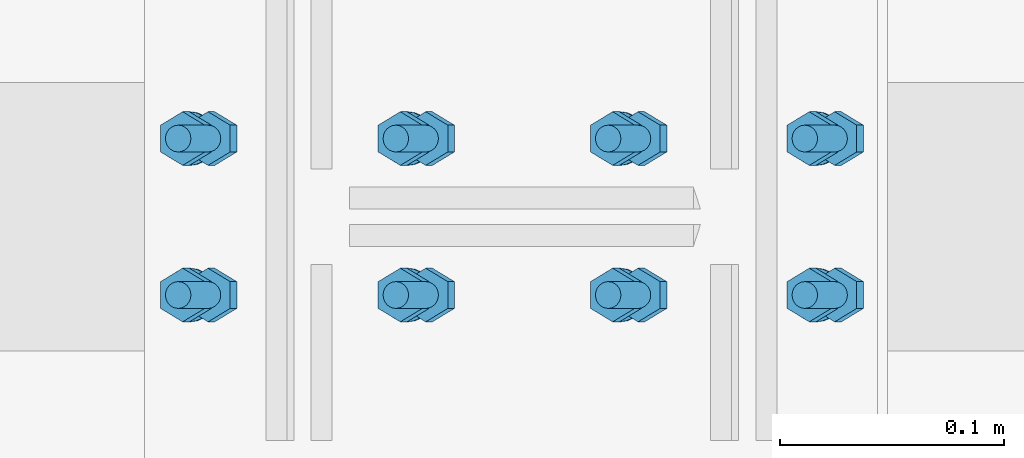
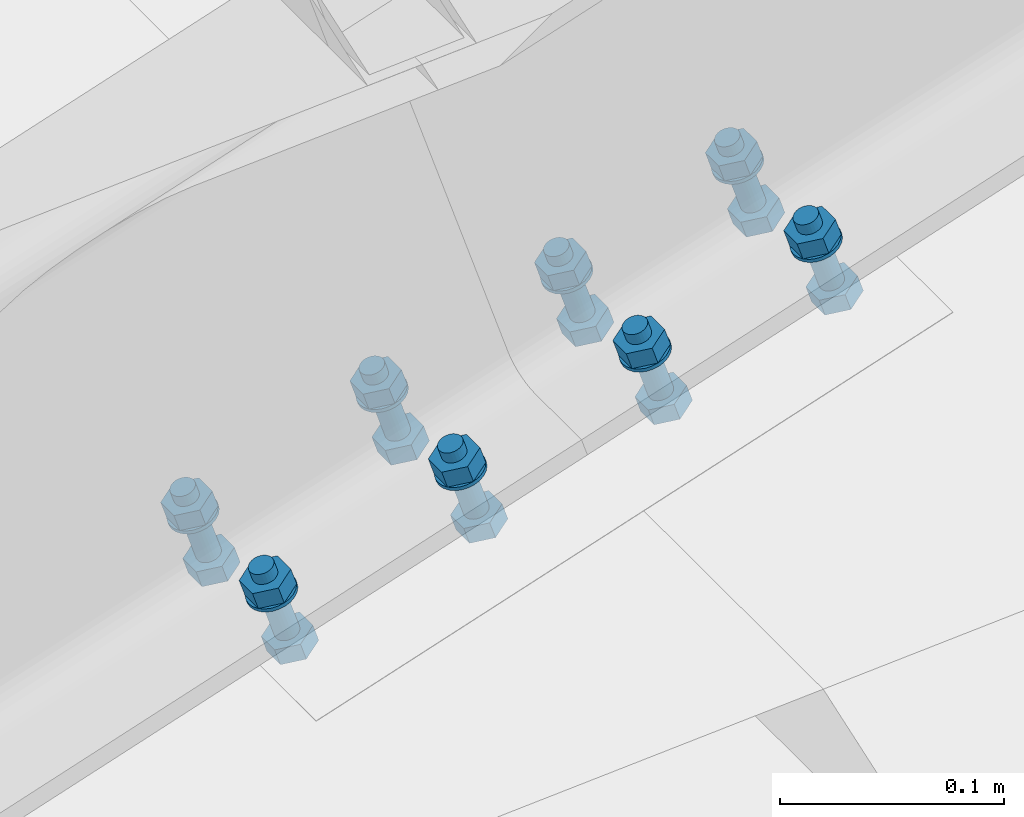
# One storey, part 25 of 53: 32 mechanical fasteners.
"""IFC4 building model written with IfcOpenShell, lengths in metres."""

from ifc_helpers import new_model, si_unit, frame, origin_with_axes, place, context, project, spatial, polyline, outline, extrude, type_object, element, save


model = new_model("IFC4")

# Units and contexts
model_context = context("Model", 3, precision=1e-05, world=origin_with_axes())
ifc_project = project(units=[si_unit("LENGTHUNIT", "METRE"), si_unit("AREAUNIT", "SQUARE_METRE"), si_unit("VOLUMEUNIT", "CUBIC_METRE"), si_unit("MASSUNIT", "GRAM", prefix="KILO"), si_unit("TIMEUNIT", "SECOND"), si_unit("PLANEANGLEUNIT", "RADIAN"), si_unit("SOLIDANGLEUNIT", "STERADIAN"), si_unit("THERMODYNAMICTEMPERATUREUNIT", "DEGREE_CELSIUS")], contexts=[model_context])

# Site, building, storey
placement_1 = place(None, origin_with_axes())
site = spatial("IfcSite", under=ifc_project, at=placement_1, Name="Italia", CompositionType="ELEMENT")
building = spatial("IfcBuilding", under=site, at=placement_1, Name="Capannone", CompositionType="ELEMENT")
storey_placement = place(None, frame((0.0, 0.0, 5.550000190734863), z_axis=(0.0, 0.0, 1.0), x_axis=(1.0, 0.0, 0.0)))
storey = spatial("IfcBuildingStorey", under=building, at=storey_placement, Name="Storey 1", CompositionType="ELEMENT", Elevation=5.550000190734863)

# Mechanical fasteners
mechanical_fastener_type_1 = type_object("IfcMechanicalFastenerType", Name="Collegamenti 0101_0001 0103_0003 0105_0005 0107_0007 0109_0009 0111_0011", PredefinedType="BOLT")
placement_2 = place(placement_1, origin_with_axes())
mechanical_fastener_1_placement = place(placement_2, origin_with_axes())
element("IfcMechanicalFastener", 1, at=mechanical_fastener_1_placement, inside=storey, type_object=mechanical_fastener_type_1, Name="Collegamenti 0101_0001 0103_0003 0105_0005 0107_0007 0109_0009 0111_0011", NominalDiameter=0.0119998, context=model_context, shape_type="SweptSolid", body=[
    extrude(outline(polyline([(0.0, 0.0), (0.0119998, 0.0), (0.0179999, -0.0103923), (0.0119998, -0.0207845), (0.0, -0.0207845), (-0.00600004, -0.0103923), (0.0, 0.0)])), frame((-0.130325, 3.029, 5.49139), z_axis=(0.312164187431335, 0.0, -0.95002818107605), x_axis=(0.0, 1.0, 0.0)), (0.0, 0.0, 1.0), 0.0095997),
])
mechanical_fastener_type_2 = type_object("IfcMechanicalFastenerType", Name="Collegamenti 0101_0001 0103_0003 0105_0005 0107_0007 0109_0009 0111_0011", PredefinedType="BOLT")
mechanical_fastener_2_placement = place(placement_2, origin_with_axes())
element("IfcMechanicalFastener", 2, at=mechanical_fastener_2_placement, inside=storey, type_object=mechanical_fastener_type_2, Name="Collegamenti 0101_0001 0103_0003 0105_0005 0107_0007 0109_0009 0111_0011", NominalDiameter=0.012, context=model_context, shape_type="SweptSolid", body=[
    extrude(outline(polyline([(0.0, 0.0), (-0.000204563, -0.00155306), (-0.000803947, -0.00300002), (-0.00175738, -0.00424254), (-0.00300002, -0.00519633), (-0.00444722, -0.0057956), (-0.00600004, -0.00600004), (-0.00755286, -0.0057956), (-0.00900006, -0.00519633), (-0.0102427, -0.00424254), (-0.0111961, -0.00300002), (-0.0117955, -0.00155306), (-0.0120001, 0.0), (-0.0117955, 0.00155294), (-0.0111961, 0.00300002), (-0.0102427, 0.00424254), (-0.00900006, 0.00519621), (-0.00755286, 0.00579548), (-0.00600004, 0.00600004), (-0.00444722, 0.00579548), (-0.00300002, 0.00519621), (-0.00175738, 0.00424254), (-0.000803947, 0.00300002), (-0.000204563, 0.00155294), (0.0, 0.0)])), frame((-0.153558, 3.041, 5.52881), z_axis=(0.312153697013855, 0.0, -0.950031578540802), x_axis=(0.0, 1.0, 0.0)), (0.0, 0.0, 1.0), 0.0428),
])
mechanical_fastener_type_3 = type_object("IfcMechanicalFastenerType", Name="Collegamenti 0101_0001 0103_0003 0105_0005 0107_0007 0109_0009 0111_0011", PredefinedType="BOLT")
mechanical_fastener_3_placement = place(placement_2, origin_with_axes())
element("IfcMechanicalFastener", 3, at=mechanical_fastener_3_placement, inside=storey, type_object=mechanical_fastener_type_3, Name="Collegamenti 0101_0001 0103_0003 0105_0005 0107_0007 0109_0009 0111_0011", NominalDiameter=0.0119998, context=model_context, shape_type="SweptSolid", body=[
    extrude(outline(polyline([(0.0, 0.0), (0.0119998, 0.0), (0.0179999, -0.0103924), (0.0119998, -0.0207846), (0.0, -0.0207846), (-0.00600004, -0.0103924), (0.0, 0.0)])), frame((-0.141687, 3.029, 5.52597), z_axis=(0.312164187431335, 0.0, -0.95002818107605), x_axis=(0.0, 1.0, 0.0)), (0.0, 0.0, 1.0), 0.0095997),
])
mechanical_fastener_type_4 = type_object("IfcMechanicalFastenerType", Name="Collegamenti 0101_0001 0103_0003 0105_0005 0107_0007 0109_0009 0111_0011", PredefinedType="BOLT")
mechanical_fastener_4_placement = place(placement_2, origin_with_axes())
element("IfcMechanicalFastener", 4, at=mechanical_fastener_4_placement, inside=storey, type_object=mechanical_fastener_type_4, Name="Collegamenti 0101_0001 0103_0003 0105_0005 0107_0007 0109_0009 0111_0011", NominalDiameter=0.024, context=model_context, shape_type="SweptSolid", body=[
    extrude(outline(polyline([(0.0, 0.0), (-0.000408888, -0.00310576), (-0.00160789, -0.00599992), (-0.00351477, -0.0084852), (-0.00600004, -0.0103922), (-0.00889421, -0.0115911), (-0.0120001, -0.0119998), (-0.015106, -0.0115911), (-0.0180001, -0.0103922), (-0.0204854, -0.0084852), (-0.0223923, -0.00599992), (-0.0235913, -0.00310576), (-0.0240002, 0.0), (-0.0235913, 0.003106), (-0.0223923, 0.00600016), (-0.0204854, 0.00848532), (-0.0180001, 0.0103924), (-0.015106, 0.0115913), (-0.0120001, 0.0120001), (-0.00889421, 0.0115913), (-0.00600004, 0.0103924), (-0.00351477, 0.00848532), (-0.00160789, 0.00600016), (-0.000408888, 0.003106), (0.0, 0.0)])), frame((-0.148563, 3.047, 5.51361), z_axis=(0.312059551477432, 0.0, -0.95006251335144), x_axis=(0.0, 1.0, 0.0)), (0.0, 0.0, 1.0), 0.00200058),
])
mechanical_fastener_type_5 = type_object("IfcMechanicalFastenerType", Name="Collegamenti 0101_0001 0103_0003 0105_0005 0107_0007 0109_0009 0111_0011", PredefinedType="BOLT")
mechanical_fastener_5_placement = place(placement_2, origin_with_axes())
element("IfcMechanicalFastener", 5, at=mechanical_fastener_5_placement, inside=storey, type_object=mechanical_fastener_type_5, Name="Collegamenti 0101_0001 0103_0003 0105_0005 0107_0007 0109_0009 0111_0011", NominalDiameter=0.0119998, context=model_context, shape_type="SweptSolid", body=[
    extrude(outline(polyline([(0.0, 0.0), (0.0119998, 0.0), (0.0179999, -0.0103923), (0.0119998, -0.0207845), (0.0, -0.0207845), (-0.00600004, -0.0103923), (0.0, 0.0)])), frame((-0.130325, 2.959, 5.49139), z_axis=(0.312164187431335, 0.0, -0.95002818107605), x_axis=(0.0, 1.0, 0.0)), (0.0, 0.0, 1.0), 0.0095997),
])
mechanical_fastener_type_6 = type_object("IfcMechanicalFastenerType", Name="Collegamenti 0101_0001 0103_0003 0105_0005 0107_0007 0109_0009 0111_0011", PredefinedType="BOLT")
mechanical_fastener_6_placement = place(placement_2, origin_with_axes())
element("IfcMechanicalFastener", 6, at=mechanical_fastener_6_placement, inside=storey, type_object=mechanical_fastener_type_6, Name="Collegamenti 0101_0001 0103_0003 0105_0005 0107_0007 0109_0009 0111_0011", NominalDiameter=0.012, context=model_context, shape_type="SweptSolid", body=[
    extrude(outline(polyline([(0.0, 0.0), (-0.000204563, -0.00155306), (-0.000803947, -0.00300002), (-0.00175738, -0.00424254), (-0.00300002, -0.00519633), (-0.00444722, -0.0057956), (-0.00600004, -0.00600004), (-0.00755286, -0.0057956), (-0.00900006, -0.00519633), (-0.0102427, -0.00424254), (-0.0111961, -0.00300002), (-0.0117955, -0.00155306), (-0.0120001, 0.0), (-0.0117955, 0.00155294), (-0.0111961, 0.00300002), (-0.0102427, 0.00424254), (-0.00900006, 0.00519621), (-0.00755286, 0.00579548), (-0.00600004, 0.00600004), (-0.00444722, 0.00579548), (-0.00300002, 0.00519621), (-0.00175738, 0.00424254), (-0.000803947, 0.00300002), (-0.000204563, 0.00155294), (0.0, 0.0)])), frame((-0.153558, 2.971, 5.52881), z_axis=(0.312153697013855, 0.0, -0.950031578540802), x_axis=(0.0, 1.0, 0.0)), (0.0, 0.0, 1.0), 0.0428),
])
mechanical_fastener_type_7 = type_object("IfcMechanicalFastenerType", Name="Collegamenti 0101_0001 0103_0003 0105_0005 0107_0007 0109_0009 0111_0011", PredefinedType="BOLT")
mechanical_fastener_7_placement = place(placement_2, origin_with_axes())
element("IfcMechanicalFastener", 7, at=mechanical_fastener_7_placement, inside=storey, type_object=mechanical_fastener_type_7, Name="Collegamenti 0101_0001 0103_0003 0105_0005 0107_0007 0109_0009 0111_0011", NominalDiameter=0.0119998, context=model_context, shape_type="SweptSolid", body=[
    extrude(outline(polyline([(0.0, 0.0), (0.0119998, 0.0), (0.0179999, -0.0103924), (0.0119998, -0.0207846), (0.0, -0.0207846), (-0.00600004, -0.0103924), (0.0, 0.0)])), frame((-0.141687, 2.959, 5.52597), z_axis=(0.312164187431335, 0.0, -0.95002818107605), x_axis=(0.0, 1.0, 0.0)), (0.0, 0.0, 1.0), 0.0095997),
])
mechanical_fastener_type_8 = type_object("IfcMechanicalFastenerType", Name="Collegamenti 0101_0001 0103_0003 0105_0005 0107_0007 0109_0009 0111_0011", PredefinedType="BOLT")
mechanical_fastener_8_placement = place(placement_2, origin_with_axes())
element("IfcMechanicalFastener", 8, at=mechanical_fastener_8_placement, inside=storey, type_object=mechanical_fastener_type_8, Name="Collegamenti 0101_0001 0103_0003 0105_0005 0107_0007 0109_0009 0111_0011", NominalDiameter=0.024, context=model_context, shape_type="SweptSolid", body=[
    extrude(outline(polyline([(0.0, 0.0), (-0.000408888, -0.00310576), (-0.00160789, -0.00599992), (-0.00351477, -0.0084852), (-0.00600004, -0.0103922), (-0.00889421, -0.0115911), (-0.0120001, -0.0119998), (-0.015106, -0.0115911), (-0.0180001, -0.0103922), (-0.0204854, -0.0084852), (-0.0223923, -0.00599992), (-0.0235913, -0.00310576), (-0.0240002, 0.0), (-0.0235913, 0.003106), (-0.0223923, 0.00600016), (-0.0204854, 0.00848532), (-0.0180001, 0.0103924), (-0.015106, 0.0115913), (-0.0120001, 0.0120001), (-0.00889421, 0.0115913), (-0.00600004, 0.0103924), (-0.00351477, 0.00848532), (-0.00160789, 0.00600016), (-0.000408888, 0.003106), (0.0, 0.0)])), frame((-0.148563, 2.977, 5.51361), z_axis=(0.312059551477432, 0.0, -0.95006251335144), x_axis=(0.0, 1.0, 0.0)), (0.0, 0.0, 1.0), 0.00200058),
])
mechanical_fastener_type_9 = type_object("IfcMechanicalFastenerType", Name="Collegamenti 0101_0001 0103_0003 0105_0005 0107_0007 0109_0009 0111_0011", PredefinedType="BOLT")
mechanical_fastener_9_placement = place(placement_2, origin_with_axes())
element("IfcMechanicalFastener", 9, at=mechanical_fastener_9_placement, inside=storey, type_object=mechanical_fastener_type_9, Name="Collegamenti 0101_0001 0103_0003 0105_0005 0107_0007 0109_0009 0111_0011", NominalDiameter=0.0119998, context=model_context, shape_type="SweptSolid", body=[
    extrude(outline(polyline([(0.0, 0.0), (0.0119998, 0.0), (0.0179999, -0.0103924), (0.0119998, -0.0207846), (0.0, -0.0207846), (-0.00600004, -0.0103924), (0.0, 0.0)])), frame((0.0620569, 3.029, 5.5546), z_axis=(0.312162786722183, 0.0, -0.950028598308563), x_axis=(0.0, 1.0, 0.0)), (0.0, 0.0, 1.0), 0.0095997),
])
mechanical_fastener_type_10 = type_object("IfcMechanicalFastenerType", Name="Collegamenti 0101_0001 0103_0003 0105_0005 0107_0007 0109_0009 0111_0011", PredefinedType="BOLT")
mechanical_fastener_10_placement = place(placement_2, origin_with_axes())
element("IfcMechanicalFastener", 10, at=mechanical_fastener_10_placement, inside=storey, type_object=mechanical_fastener_type_10, Name="Collegamenti 0101_0001 0103_0003 0105_0005 0107_0007 0109_0009 0111_0011", NominalDiameter=0.012, context=model_context, shape_type="SweptSolid", body=[
    extrude(outline(polyline([(0.0, 0.0), (-0.000204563, -0.00155294), (-0.000803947, -0.0029999), (-0.00175738, -0.00424266), (-0.00300002, -0.00519621), (-0.00444722, -0.00579548), (-0.00600004, -0.00600004), (-0.00755286, -0.00579548), (-0.00900006, -0.00519621), (-0.0102427, -0.00424266), (-0.0111961, -0.0029999), (-0.0117955, -0.00155294), (-0.0120001, 0.0), (-0.0117955, 0.00155306), (-0.0111961, 0.00300002), (-0.0102427, 0.00424254), (-0.00900006, 0.00519621), (-0.00755286, 0.0057956), (-0.00600004, 0.00600004), (-0.00444722, 0.0057956), (-0.00300002, 0.00519621), (-0.00175738, 0.00424254), (-0.000803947, 0.00300002), (-0.000204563, 0.00155306), (0.0, 0.0)])), frame((0.0388237, 3.041, 5.59202), z_axis=(0.312154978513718, 0.0, -0.950031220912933), x_axis=(0.0, 1.0, 0.0)), (0.0, 0.0, 1.0), 0.0428),
])
mechanical_fastener_type_11 = type_object("IfcMechanicalFastenerType", Name="Collegamenti 0101_0001 0103_0003 0105_0005 0107_0007 0109_0009 0111_0011", PredefinedType="BOLT")
mechanical_fastener_11_placement = place(placement_2, origin_with_axes())
element("IfcMechanicalFastener", 11, at=mechanical_fastener_11_placement, inside=storey, type_object=mechanical_fastener_type_11, Name="Collegamenti 0101_0001 0103_0003 0105_0005 0107_0007 0109_0009 0111_0011", NominalDiameter=0.0119998, context=model_context, shape_type="SweptSolid", body=[
    extrude(outline(polyline([(0.0, 0.0), (0.0119998, 0.0), (0.0179999, -0.0103922), (0.0119998, -0.0207845), (0.0, -0.0207845), (-0.00600004, -0.0103922), (0.0, 0.0)])), frame((0.0506946, 3.029, 5.58918), z_axis=(0.312163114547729, 0.0, -0.950028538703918), x_axis=(0.0, 1.0, 0.0)), (0.0, 0.0, 1.0), 0.0095997),
])
mechanical_fastener_type_12 = type_object("IfcMechanicalFastenerType", Name="Collegamenti 0101_0001 0103_0003 0105_0005 0107_0007 0109_0009 0111_0011", PredefinedType="BOLT")
mechanical_fastener_12_placement = place(placement_2, origin_with_axes())
element("IfcMechanicalFastener", 12, at=mechanical_fastener_12_placement, inside=storey, type_object=mechanical_fastener_type_12, Name="Collegamenti 0101_0001 0103_0003 0105_0005 0107_0007 0109_0009 0111_0011", NominalDiameter=0.024, context=model_context, shape_type="SweptSolid", body=[
    extrude(outline(polyline([(0.0, 0.0), (-0.000408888, -0.003106), (-0.00160789, -0.00600004), (-0.00351477, -0.00848544), (-0.00600004, -0.0103923), (-0.00889421, -0.0115912), (-0.0120001, -0.0120001), (-0.015106, -0.0115912), (-0.0180001, -0.0103923), (-0.0204854, -0.00848544), (-0.0223923, -0.00600004), (-0.0235913, -0.003106), (-0.0240002, 0.0), (-0.0235913, 0.00310588), (-0.0223923, 0.0059998), (-0.0204854, 0.0084852), (-0.0180001, 0.0103922), (-0.015106, 0.011591), (-0.0120001, 0.012), (-0.00889421, 0.011591), (-0.00600004, 0.0103922), (-0.00351477, 0.0084852), (-0.00160789, 0.0059998), (-0.000408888, 0.00310588), (0.0, 0.0)])), frame((0.0438182, 3.047, 5.57682), z_axis=(0.312204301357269, 0.0, -0.950015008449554), x_axis=(0.0, 1.0, 0.0)), (0.0, 0.0, 1.0), 0.00199967),
])
mechanical_fastener_type_13 = type_object("IfcMechanicalFastenerType", Name="Collegamenti 0101_0001 0103_0003 0105_0005 0107_0007 0109_0009 0111_0011", PredefinedType="BOLT")
mechanical_fastener_13_placement = place(placement_2, origin_with_axes())
element("IfcMechanicalFastener", 13, at=mechanical_fastener_13_placement, inside=storey, type_object=mechanical_fastener_type_13, Name="Collegamenti 0101_0001 0103_0003 0105_0005 0107_0007 0109_0009 0111_0011", NominalDiameter=0.0119998, context=model_context, shape_type="SweptSolid", body=[
    extrude(outline(polyline([(0.0, 0.0), (0.0119998, 0.0), (0.0179999, -0.0103924), (0.0119998, -0.0207846), (0.0, -0.0207846), (-0.00600004, -0.0103924), (0.0, 0.0)])), frame((0.0620569, 2.959, 5.5546), z_axis=(0.312162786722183, 0.0, -0.950028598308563), x_axis=(0.0, 1.0, 0.0)), (0.0, 0.0, 1.0), 0.0095997),
])
mechanical_fastener_type_14 = type_object("IfcMechanicalFastenerType", Name="Collegamenti 0101_0001 0103_0003 0105_0005 0107_0007 0109_0009 0111_0011", PredefinedType="BOLT")
mechanical_fastener_14_placement = place(placement_2, origin_with_axes())
element("IfcMechanicalFastener", 14, at=mechanical_fastener_14_placement, inside=storey, type_object=mechanical_fastener_type_14, Name="Collegamenti 0101_0001 0103_0003 0105_0005 0107_0007 0109_0009 0111_0011", NominalDiameter=0.012, context=model_context, shape_type="SweptSolid", body=[
    extrude(outline(polyline([(0.0, 0.0), (-0.000204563, -0.00155294), (-0.000803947, -0.0029999), (-0.00175738, -0.00424266), (-0.00300002, -0.00519621), (-0.00444722, -0.00579548), (-0.00600004, -0.00600004), (-0.00755286, -0.00579548), (-0.00900006, -0.00519621), (-0.0102427, -0.00424266), (-0.0111961, -0.0029999), (-0.0117955, -0.00155294), (-0.0120001, 0.0), (-0.0117955, 0.00155306), (-0.0111961, 0.00300002), (-0.0102427, 0.00424254), (-0.00900006, 0.00519621), (-0.00755286, 0.0057956), (-0.00600004, 0.00600004), (-0.00444722, 0.0057956), (-0.00300002, 0.00519621), (-0.00175738, 0.00424254), (-0.000803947, 0.00300002), (-0.000204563, 0.00155306), (0.0, 0.0)])), frame((0.0388237, 2.971, 5.59202), z_axis=(0.312154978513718, 0.0, -0.950031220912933), x_axis=(0.0, 1.0, 0.0)), (0.0, 0.0, 1.0), 0.0428),
])
mechanical_fastener_type_15 = type_object("IfcMechanicalFastenerType", Name="Collegamenti 0101_0001 0103_0003 0105_0005 0107_0007 0109_0009 0111_0011", PredefinedType="BOLT")
mechanical_fastener_15_placement = place(placement_2, origin_with_axes())
element("IfcMechanicalFastener", 15, at=mechanical_fastener_15_placement, inside=storey, type_object=mechanical_fastener_type_15, Name="Collegamenti 0101_0001 0103_0003 0105_0005 0107_0007 0109_0009 0111_0011", NominalDiameter=0.0119998, context=model_context, shape_type="SweptSolid", body=[
    extrude(outline(polyline([(0.0, 0.0), (0.0119998, 0.0), (0.0179999, -0.0103922), (0.0119998, -0.0207845), (0.0, -0.0207845), (-0.00600004, -0.0103922), (0.0, 0.0)])), frame((0.0506946, 2.959, 5.58918), z_axis=(0.312163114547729, 0.0, -0.950028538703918), x_axis=(0.0, 1.0, 0.0)), (0.0, 0.0, 1.0), 0.0095997),
])
mechanical_fastener_type_16 = type_object("IfcMechanicalFastenerType", Name="Collegamenti 0101_0001 0103_0003 0105_0005 0107_0007 0109_0009 0111_0011", PredefinedType="BOLT")
mechanical_fastener_16_placement = place(placement_2, origin_with_axes())
element("IfcMechanicalFastener", 16, at=mechanical_fastener_16_placement, inside=storey, type_object=mechanical_fastener_type_16, Name="Collegamenti 0101_0001 0103_0003 0105_0005 0107_0007 0109_0009 0111_0011", NominalDiameter=0.024, context=model_context, shape_type="SweptSolid", body=[
    extrude(outline(polyline([(0.0, 0.0), (-0.000408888, -0.003106), (-0.00160789, -0.00600004), (-0.00351477, -0.00848544), (-0.00600004, -0.0103923), (-0.00889421, -0.0115912), (-0.0120001, -0.0120001), (-0.015106, -0.0115912), (-0.0180001, -0.0103923), (-0.0204854, -0.00848544), (-0.0223923, -0.00600004), (-0.0235913, -0.003106), (-0.0240002, 0.0), (-0.0235913, 0.00310588), (-0.0223923, 0.0059998), (-0.0204854, 0.0084852), (-0.0180001, 0.0103922), (-0.015106, 0.011591), (-0.0120001, 0.012), (-0.00889421, 0.011591), (-0.00600004, 0.0103922), (-0.00351477, 0.0084852), (-0.00160789, 0.0059998), (-0.000408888, 0.00310588), (0.0, 0.0)])), frame((0.0438182, 2.977, 5.57682), z_axis=(0.312204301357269, 0.0, -0.950015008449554), x_axis=(0.0, 1.0, 0.0)), (0.0, 0.0, 1.0), 0.00199967),
])
mechanical_fastener_type_17 = type_object("IfcMechanicalFastenerType", Name="Collegamenti 0101_0001 0103_0003 0105_0005 0107_0007 0109_0009 0111_0011", PredefinedType="BOLT")
mechanical_fastener_17_placement = place(placement_2, origin_with_axes())
element("IfcMechanicalFastener", 17, at=mechanical_fastener_17_placement, inside=storey, type_object=mechanical_fastener_type_17, Name="Collegamenti 0101_0001 0103_0003 0105_0005 0107_0007 0109_0009 0111_0011", NominalDiameter=0.0119998, context=model_context, shape_type="SweptSolid", body=[
    extrude(outline(polyline([(0.0, 0.0), (0.0119998, 0.0), (0.0179999, -0.0103922), (0.0119998, -0.0207846), (0.0, -0.0207846), (-0.00600004, -0.0103922), (0.0, 0.0)])), frame((-0.0329462, 3.029, 5.52339), z_axis=(0.312148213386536, 0.0, -0.95003342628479), x_axis=(0.0, 1.0, 0.0)), (0.0, 0.0, 1.0), 0.00960015),
])
mechanical_fastener_type_18 = type_object("IfcMechanicalFastenerType", Name="Collegamenti 0101_0001 0103_0003 0105_0005 0107_0007 0109_0009 0111_0011", PredefinedType="BOLT")
mechanical_fastener_18_placement = place(placement_2, origin_with_axes())
element("IfcMechanicalFastener", 18, at=mechanical_fastener_18_placement, inside=storey, type_object=mechanical_fastener_type_18, Name="Collegamenti 0101_0001 0103_0003 0105_0005 0107_0007 0109_0009 0111_0011", NominalDiameter=0.012, context=model_context, shape_type="SweptSolid", body=[
    extrude(outline(polyline([(0.0, 0.0), (-0.000204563, -0.00155294), (-0.000803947, -0.00300002), (-0.00175738, -0.00424266), (-0.00300002, -0.00519621), (-0.00444722, -0.0057956), (-0.00600004, -0.00600004), (-0.00755286, -0.0057956), (-0.00900006, -0.00519621), (-0.0102427, -0.00424266), (-0.0111961, -0.00300002), (-0.0117955, -0.00155294), (-0.0120001, 0.0), (-0.0117955, 0.00155306), (-0.0111961, 0.00300002), (-0.0102427, 0.00424254), (-0.00900006, 0.00519609), (-0.00755286, 0.0057956), (-0.00600004, 0.00600004), (-0.00444722, 0.0057956), (-0.00300002, 0.00519609), (-0.00175738, 0.00424254), (-0.000803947, 0.00300002), (-0.000204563, 0.00155306), (0.0, 0.0)])), frame((-0.0561794, 3.041, 5.5608), z_axis=(0.312153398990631, 0.0, -0.950031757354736), x_axis=(0.0, 1.0, 0.0)), (0.0, 0.0, 1.0), 0.0428),
])
mechanical_fastener_type_19 = type_object("IfcMechanicalFastenerType", Name="Collegamenti 0101_0001 0103_0003 0105_0005 0107_0007 0109_0009 0111_0011", PredefinedType="BOLT")
mechanical_fastener_19_placement = place(placement_2, origin_with_axes())
element("IfcMechanicalFastener", 19, at=mechanical_fastener_19_placement, inside=storey, type_object=mechanical_fastener_type_19, Name="Collegamenti 0101_0001 0103_0003 0105_0005 0107_0007 0109_0009 0111_0011", NominalDiameter=0.0119998, context=model_context, shape_type="SweptSolid", body=[
    extrude(outline(polyline([(0.0, 0.0), (0.0119998, 0.0), (0.0179999, -0.0103922), (0.0119998, -0.0207845), (0.0, -0.0207845), (-0.00600004, -0.0103922), (0.0, 0.0)])), frame((-0.0443086, 3.029, 5.55797), z_axis=(0.31214839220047, 0.0, -0.9500333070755), x_axis=(0.0, 1.0, 0.0)), (0.0, 0.0, 1.0), 0.00960015),
])
mechanical_fastener_type_20 = type_object("IfcMechanicalFastenerType", Name="Collegamenti 0101_0001 0103_0003 0105_0005 0107_0007 0109_0009 0111_0011", PredefinedType="BOLT")
mechanical_fastener_20_placement = place(placement_2, origin_with_axes())
element("IfcMechanicalFastener", 20, at=mechanical_fastener_20_placement, inside=storey, type_object=mechanical_fastener_type_20, Name="Collegamenti 0101_0001 0103_0003 0105_0005 0107_0007 0109_0009 0111_0011", NominalDiameter=0.024, context=model_context, shape_type="SweptSolid", body=[
    extrude(outline(polyline([(0.0, 0.0), (-0.000408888, -0.00310588), (-0.00160789, -0.00600004), (-0.00351477, -0.00848532), (-0.00600004, -0.0103923), (-0.00889421, -0.0115912), (-0.0120001, -0.012), (-0.015106, -0.0115912), (-0.0180001, -0.0103923), (-0.0204854, -0.00848532), (-0.0223923, -0.00600004), (-0.0235913, -0.00310588), (-0.0240002, 0.0), (-0.0235913, 0.00310588), (-0.0223923, 0.00600004), (-0.0204854, 0.0084852), (-0.0180001, 0.0103923), (-0.015106, 0.0115912), (-0.0120001, 0.012), (-0.00889421, 0.0115912), (-0.00600004, 0.0103923), (-0.00351477, 0.0084852), (-0.00160789, 0.00600004), (-0.000408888, 0.00310588), (0.0, 0.0)])), frame((-0.051185, 3.047, 5.5456), z_axis=(0.312062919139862, 0.0, -0.950061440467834), x_axis=(0.0, 1.0, 0.0)), (0.0, 0.0, 1.0), 0.00200058),
])
mechanical_fastener_type_21 = type_object("IfcMechanicalFastenerType", Name="Collegamenti 0101_0001 0103_0003 0105_0005 0107_0007 0109_0009 0111_0011", PredefinedType="BOLT")
mechanical_fastener_21_placement = place(placement_2, origin_with_axes())
element("IfcMechanicalFastener", 21, at=mechanical_fastener_21_placement, inside=storey, type_object=mechanical_fastener_type_21, Name="Collegamenti 0101_0001 0103_0003 0105_0005 0107_0007 0109_0009 0111_0011", NominalDiameter=0.0119998, context=model_context, shape_type="SweptSolid", body=[
    extrude(outline(polyline([(0.0, 0.0), (0.0119998, 0.0), (0.0179999, -0.0103922), (0.0119998, -0.0207846), (0.0, -0.0207846), (-0.00600004, -0.0103922), (0.0, 0.0)])), frame((-0.0329462, 2.959, 5.52339), z_axis=(0.312148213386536, 0.0, -0.95003342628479), x_axis=(0.0, 1.0, 0.0)), (0.0, 0.0, 1.0), 0.00960015),
])
mechanical_fastener_type_22 = type_object("IfcMechanicalFastenerType", Name="Collegamenti 0101_0001 0103_0003 0105_0005 0107_0007 0109_0009 0111_0011", PredefinedType="BOLT")
mechanical_fastener_22_placement = place(placement_2, origin_with_axes())
element("IfcMechanicalFastener", 22, at=mechanical_fastener_22_placement, inside=storey, type_object=mechanical_fastener_type_22, Name="Collegamenti 0101_0001 0103_0003 0105_0005 0107_0007 0109_0009 0111_0011", NominalDiameter=0.012, context=model_context, shape_type="SweptSolid", body=[
    extrude(outline(polyline([(0.0, 0.0), (-0.000204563, -0.00155294), (-0.000803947, -0.00300002), (-0.00175738, -0.00424266), (-0.00300002, -0.00519621), (-0.00444722, -0.0057956), (-0.00600004, -0.00600004), (-0.00755286, -0.0057956), (-0.00900006, -0.00519621), (-0.0102427, -0.00424266), (-0.0111961, -0.00300002), (-0.0117955, -0.00155294), (-0.0120001, 0.0), (-0.0117955, 0.00155306), (-0.0111961, 0.00300002), (-0.0102427, 0.00424254), (-0.00900006, 0.00519609), (-0.00755286, 0.0057956), (-0.00600004, 0.00600004), (-0.00444722, 0.0057956), (-0.00300002, 0.00519609), (-0.00175738, 0.00424254), (-0.000803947, 0.00300002), (-0.000204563, 0.00155306), (0.0, 0.0)])), frame((-0.0561794, 2.971, 5.5608), z_axis=(0.312153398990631, 0.0, -0.950031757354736), x_axis=(0.0, 1.0, 0.0)), (0.0, 0.0, 1.0), 0.0428),
])
mechanical_fastener_type_23 = type_object("IfcMechanicalFastenerType", Name="Collegamenti 0101_0001 0103_0003 0105_0005 0107_0007 0109_0009 0111_0011", PredefinedType="BOLT")
mechanical_fastener_23_placement = place(placement_2, origin_with_axes())
element("IfcMechanicalFastener", 23, at=mechanical_fastener_23_placement, inside=storey, type_object=mechanical_fastener_type_23, Name="Collegamenti 0101_0001 0103_0003 0105_0005 0107_0007 0109_0009 0111_0011", NominalDiameter=0.0119998, context=model_context, shape_type="SweptSolid", body=[
    extrude(outline(polyline([(0.0, 0.0), (0.0119998, 0.0), (0.0179999, -0.0103922), (0.0119998, -0.0207845), (0.0, -0.0207845), (-0.00600004, -0.0103922), (0.0, 0.0)])), frame((-0.0443086, 2.959, 5.55797), z_axis=(0.31214839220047, 0.0, -0.9500333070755), x_axis=(0.0, 1.0, 0.0)), (0.0, 0.0, 1.0), 0.00960015),
])
mechanical_fastener_type_24 = type_object("IfcMechanicalFastenerType", Name="Collegamenti 0101_0001 0103_0003 0105_0005 0107_0007 0109_0009 0111_0011", PredefinedType="BOLT")
mechanical_fastener_24_placement = place(placement_2, origin_with_axes())
element("IfcMechanicalFastener", 24, at=mechanical_fastener_24_placement, inside=storey, type_object=mechanical_fastener_type_24, Name="Collegamenti 0101_0001 0103_0003 0105_0005 0107_0007 0109_0009 0111_0011", NominalDiameter=0.024, context=model_context, shape_type="SweptSolid", body=[
    extrude(outline(polyline([(0.0, 0.0), (-0.000408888, -0.00310588), (-0.00160789, -0.00600004), (-0.00351477, -0.00848532), (-0.00600004, -0.0103923), (-0.00889421, -0.0115912), (-0.0120001, -0.012), (-0.015106, -0.0115912), (-0.0180001, -0.0103923), (-0.0204854, -0.00848532), (-0.0223923, -0.00600004), (-0.0235913, -0.00310588), (-0.0240002, 0.0), (-0.0235913, 0.00310588), (-0.0223923, 0.00600004), (-0.0204854, 0.0084852), (-0.0180001, 0.0103923), (-0.015106, 0.0115912), (-0.0120001, 0.012), (-0.00889421, 0.0115912), (-0.00600004, 0.0103923), (-0.00351477, 0.0084852), (-0.00160789, 0.00600004), (-0.000408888, 0.00310588), (0.0, 0.0)])), frame((-0.051185, 2.977, 5.5456), z_axis=(0.312062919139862, 0.0, -0.950061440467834), x_axis=(0.0, 1.0, 0.0)), (0.0, 0.0, 1.0), 0.00200058),
])
mechanical_fastener_type_25 = type_object("IfcMechanicalFastenerType", Name="Collegamenti 0101_0001 0103_0003 0105_0005 0107_0007 0109_0009 0111_0011", PredefinedType="BOLT")
mechanical_fastener_25_placement = place(placement_2, origin_with_axes())
element("IfcMechanicalFastener", 25, at=mechanical_fastener_25_placement, inside=storey, type_object=mechanical_fastener_type_25, Name="Collegamenti 0101_0001 0103_0003 0105_0005 0107_0007 0109_0009 0111_0011", NominalDiameter=0.0119998, context=model_context, shape_type="SweptSolid", body=[
    extrude(outline(polyline([(0.0, 0.0), (0.0119998, 0.0), (0.0179999, -0.0103923), (0.0119998, -0.0207845), (0.0, -0.0207845), (-0.00600004, -0.0103923), (0.0, 0.0)])), frame((0.15003, 3.029, 5.58351), z_axis=(0.312164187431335, 0.0, -0.95002818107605), x_axis=(0.0, 1.0, 0.0)), (0.0, 0.0, 1.0), 0.0095997),
])
mechanical_fastener_type_26 = type_object("IfcMechanicalFastenerType", Name="Collegamenti 0101_0001 0103_0003 0105_0005 0107_0007 0109_0009 0111_0011", PredefinedType="BOLT")
mechanical_fastener_26_placement = place(placement_2, origin_with_axes())
element("IfcMechanicalFastener", 26, at=mechanical_fastener_26_placement, inside=storey, type_object=mechanical_fastener_type_26, Name="Collegamenti 0101_0001 0103_0003 0105_0005 0107_0007 0109_0009 0111_0011", NominalDiameter=0.012, context=model_context, shape_type="SweptSolid", body=[
    extrude(outline(polyline([(0.0, 0.0), (-0.000204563, -0.00155306), (-0.000803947, -0.00300014), (-0.00175738, -0.00424266), (-0.00300002, -0.00519633), (-0.00444722, -0.00579572), (-0.00600004, -0.00600016), (-0.00755286, -0.00579572), (-0.00900006, -0.00519633), (-0.0102427, -0.00424266), (-0.0111961, -0.00300014), (-0.0117955, -0.00155306), (-0.0120001, 0.0), (-0.0117955, 0.00155294), (-0.0111961, 0.0029999), (-0.0102427, 0.00424254), (-0.00900006, 0.00519609), (-0.00755286, 0.00579548), (-0.00600004, 0.00599992), (-0.00444722, 0.00579548), (-0.00300002, 0.00519609), (-0.00175738, 0.00424254), (-0.000803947, 0.0029999), (-0.000204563, 0.00155294), (0.0, 0.0)])), frame((0.126797, 3.041, 5.62092), z_axis=(0.312151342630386, 0.0, -0.950032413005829), x_axis=(0.0, 1.0, 0.0)), (0.0, 0.0, 1.0), 0.0428004),
])
mechanical_fastener_type_27 = type_object("IfcMechanicalFastenerType", Name="Collegamenti 0101_0001 0103_0003 0105_0005 0107_0007 0109_0009 0111_0011", PredefinedType="BOLT")
mechanical_fastener_27_placement = place(placement_2, origin_with_axes())
element("IfcMechanicalFastener", 27, at=mechanical_fastener_27_placement, inside=storey, type_object=mechanical_fastener_type_27, Name="Collegamenti 0101_0001 0103_0003 0105_0005 0107_0007 0109_0009 0111_0011", NominalDiameter=0.0119998, context=model_context, shape_type="SweptSolid", body=[
    extrude(outline(polyline([(0.0, 0.0), (0.0119998, 0.0), (0.0179999, -0.0103924), (0.0119998, -0.0207846), (0.0, -0.0207846), (-0.00600004, -0.0103924), (0.0, 0.0)])), frame((0.138667, 3.029, 5.61809), z_axis=(0.312164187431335, 0.0, -0.95002818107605), x_axis=(0.0, 1.0, 0.0)), (0.0, 0.0, 1.0), 0.0095997),
])
mechanical_fastener_type_28 = type_object("IfcMechanicalFastenerType", Name="Collegamenti 0101_0001 0103_0003 0105_0005 0107_0007 0109_0009 0111_0011", PredefinedType="BOLT")
mechanical_fastener_28_placement = place(placement_2, origin_with_axes())
element("IfcMechanicalFastener", 28, at=mechanical_fastener_28_placement, inside=storey, type_object=mechanical_fastener_type_28, Name="Collegamenti 0101_0001 0103_0003 0105_0005 0107_0007 0109_0009 0111_0011", NominalDiameter=0.024, context=model_context, shape_type="SweptSolid", body=[
    extrude(outline(polyline([(0.0, 0.0), (-0.000408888, -0.00310588), (-0.00160789, -0.00600004), (-0.00351477, -0.00848532), (-0.00600004, -0.0103923), (-0.00889421, -0.0115911), (-0.0120001, -0.012), (-0.015106, -0.0115911), (-0.0180001, -0.0103923), (-0.0204854, -0.00848532), (-0.0223923, -0.00600004), (-0.0235913, -0.00310588), (-0.0240002, 0.0), (-0.0235913, 0.00310588), (-0.0223923, 0.00600004), (-0.0204854, 0.0084852), (-0.0180001, 0.0103923), (-0.015106, 0.0115912), (-0.0120001, 0.012), (-0.00889421, 0.0115912), (-0.00600004, 0.0103923), (-0.00351477, 0.0084852), (-0.00160789, 0.00600004), (-0.000408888, 0.00310588), (0.0, 0.0)])), frame((0.131791, 3.047, 5.60572), z_axis=(0.312059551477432, 0.0, -0.95006251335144), x_axis=(0.0, 1.0, 0.0)), (0.0, 0.0, 1.0), 0.00200058),
])
mechanical_fastener_type_29 = type_object("IfcMechanicalFastenerType", Name="Collegamenti 0101_0001 0103_0003 0105_0005 0107_0007 0109_0009 0111_0011", PredefinedType="BOLT")
mechanical_fastener_29_placement = place(placement_2, origin_with_axes())
element("IfcMechanicalFastener", 29, at=mechanical_fastener_29_placement, inside=storey, type_object=mechanical_fastener_type_29, Name="Collegamenti 0101_0001 0103_0003 0105_0005 0107_0007 0109_0009 0111_0011", NominalDiameter=0.0119998, context=model_context, shape_type="SweptSolid", body=[
    extrude(outline(polyline([(0.0, 0.0), (0.0119998, 0.0), (0.0179999, -0.0103923), (0.0119998, -0.0207845), (0.0, -0.0207845), (-0.00600004, -0.0103923), (0.0, 0.0)])), frame((0.15003, 2.959, 5.58351), z_axis=(0.312164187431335, 0.0, -0.95002818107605), x_axis=(0.0, 1.0, 0.0)), (0.0, 0.0, 1.0), 0.0095997),
])
mechanical_fastener_type_30 = type_object("IfcMechanicalFastenerType", Name="Collegamenti 0101_0001 0103_0003 0105_0005 0107_0007 0109_0009 0111_0011", PredefinedType="BOLT")
mechanical_fastener_30_placement = place(placement_2, origin_with_axes())
element("IfcMechanicalFastener", 30, at=mechanical_fastener_30_placement, inside=storey, type_object=mechanical_fastener_type_30, Name="Collegamenti 0101_0001 0103_0003 0105_0005 0107_0007 0109_0009 0111_0011", NominalDiameter=0.012, context=model_context, shape_type="SweptSolid", body=[
    extrude(outline(polyline([(0.0, 0.0), (-0.000204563, -0.00155306), (-0.000803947, -0.00300014), (-0.00175738, -0.00424266), (-0.00300002, -0.00519633), (-0.00444722, -0.00579572), (-0.00600004, -0.00600016), (-0.00755286, -0.00579572), (-0.00900006, -0.00519633), (-0.0102427, -0.00424266), (-0.0111961, -0.00300014), (-0.0117955, -0.00155306), (-0.0120001, 0.0), (-0.0117955, 0.00155294), (-0.0111961, 0.0029999), (-0.0102427, 0.00424254), (-0.00900006, 0.00519609), (-0.00755286, 0.00579548), (-0.00600004, 0.00599992), (-0.00444722, 0.00579548), (-0.00300002, 0.00519609), (-0.00175738, 0.00424254), (-0.000803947, 0.0029999), (-0.000204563, 0.00155294), (0.0, 0.0)])), frame((0.126797, 2.971, 5.62092), z_axis=(0.312151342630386, 0.0, -0.950032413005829), x_axis=(0.0, 1.0, 0.0)), (0.0, 0.0, 1.0), 0.0428004),
])
mechanical_fastener_type_31 = type_object("IfcMechanicalFastenerType", Name="Collegamenti 0101_0001 0103_0003 0105_0005 0107_0007 0109_0009 0111_0011", PredefinedType="BOLT")
mechanical_fastener_31_placement = place(placement_2, origin_with_axes())
element("IfcMechanicalFastener", 31, at=mechanical_fastener_31_placement, inside=storey, type_object=mechanical_fastener_type_31, Name="Collegamenti 0101_0001 0103_0003 0105_0005 0107_0007 0109_0009 0111_0011", NominalDiameter=0.0119998, context=model_context, shape_type="SweptSolid", body=[
    extrude(outline(polyline([(0.0, 0.0), (0.0119998, 0.0), (0.0179999, -0.0103924), (0.0119998, -0.0207846), (0.0, -0.0207846), (-0.00600004, -0.0103924), (0.0, 0.0)])), frame((0.138667, 2.959, 5.61809), z_axis=(0.312164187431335, 0.0, -0.95002818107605), x_axis=(0.0, 1.0, 0.0)), (0.0, 0.0, 1.0), 0.0095997),
])
mechanical_fastener_type_32 = type_object("IfcMechanicalFastenerType", Name="Collegamenti 0101_0001 0103_0003 0105_0005 0107_0007 0109_0009 0111_0011", PredefinedType="BOLT")
mechanical_fastener_32_placement = place(placement_2, origin_with_axes())
element("IfcMechanicalFastener", 32, at=mechanical_fastener_32_placement, inside=storey, type_object=mechanical_fastener_type_32, Name="Collegamenti 0101_0001 0103_0003 0105_0005 0107_0007 0109_0009 0111_0011", NominalDiameter=0.024, context=model_context, shape_type="SweptSolid", body=[
    extrude(outline(polyline([(0.0, 0.0), (-0.000408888, -0.00310588), (-0.00160789, -0.00600004), (-0.00351477, -0.00848532), (-0.00600004, -0.0103923), (-0.00889421, -0.0115911), (-0.0120001, -0.012), (-0.015106, -0.0115911), (-0.0180001, -0.0103923), (-0.0204854, -0.00848532), (-0.0223923, -0.00600004), (-0.0235913, -0.00310588), (-0.0240002, 0.0), (-0.0235913, 0.00310588), (-0.0223923, 0.00600004), (-0.0204854, 0.0084852), (-0.0180001, 0.0103923), (-0.015106, 0.0115912), (-0.0120001, 0.012), (-0.00889421, 0.0115912), (-0.00600004, 0.0103923), (-0.00351477, 0.0084852), (-0.00160789, 0.00600004), (-0.000408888, 0.00310588), (0.0, 0.0)])), frame((0.131791, 2.977, 5.60572), z_axis=(0.312059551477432, 0.0, -0.95006251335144), x_axis=(0.0, 1.0, 0.0)), (0.0, 0.0, 1.0), 0.00200058),
])

save(model, "model.ifc")
